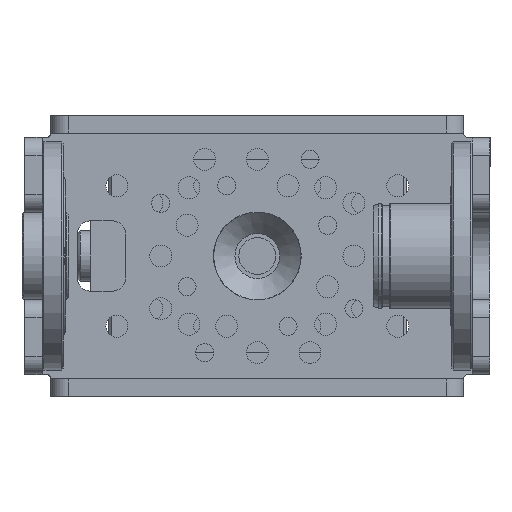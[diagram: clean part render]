
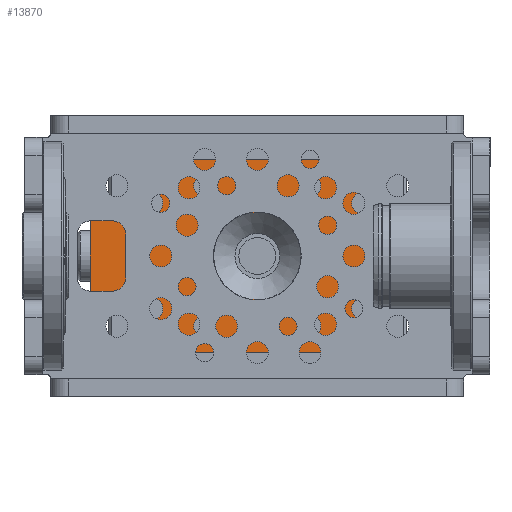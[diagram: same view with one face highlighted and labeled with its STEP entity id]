
A CAD part, left-side view. The second image highlights one B-rep face of the part: STEP entity #13870.
In plain terms, the highlighted planar face has unit normal (-1, 0, 0) as drawn and (0, 0, -1) by its records, which use the part's own axes.
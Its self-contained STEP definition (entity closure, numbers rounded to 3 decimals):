
#1240=FACE_BOUND('',#3036,.T.);
#1241=FACE_BOUND('',#3037,.T.);
#1242=FACE_BOUND('',#3038,.T.);
#1243=FACE_BOUND('',#3039,.T.);
#1244=FACE_BOUND('',#3040,.T.);
#1245=FACE_BOUND('',#3041,.T.);
#1246=FACE_BOUND('',#3042,.T.);
#1247=FACE_BOUND('',#3043,.T.);
#1248=FACE_BOUND('',#3044,.T.);
#1249=FACE_BOUND('',#3045,.T.);
#1250=FACE_BOUND('',#3046,.T.);
#1251=FACE_BOUND('',#3047,.T.);
#1252=FACE_BOUND('',#3048,.T.);
#1938=FACE_OUTER_BOUND('',#3035,.T.);
#3035=EDGE_LOOP('',(#11576,#11577,#11578,#11579,#11580,#11581,#11582,#11583));
#3036=EDGE_LOOP('',(#11584));
#3037=EDGE_LOOP('',(#11585));
#3038=EDGE_LOOP('',(#11586));
#3039=EDGE_LOOP('',(#11587));
#3040=EDGE_LOOP('',(#11588));
#3041=EDGE_LOOP('',(#11589));
#3042=EDGE_LOOP('',(#11590));
#3043=EDGE_LOOP('',(#11591));
#3044=EDGE_LOOP('',(#11592));
#3045=EDGE_LOOP('',(#11593));
#3046=EDGE_LOOP('',(#11594));
#3047=EDGE_LOOP('',(#11595));
#3048=EDGE_LOOP('',(#11596));
#4080=CIRCLE('',#15167,4.975);
#4081=CIRCLE('',#15169,2.);
#4082=CIRCLE('',#15170,2.);
#4083=CIRCLE('',#15171,2.);
#4084=CIRCLE('',#15172,2.);
#4085=CIRCLE('',#15173,1.25);
#4086=CIRCLE('',#15174,1.25);
#4087=CIRCLE('',#15175,1.25);
#4088=CIRCLE('',#15176,1.25);
#4089=CIRCLE('',#15177,1.25);
#4090=CIRCLE('',#15178,1.25);
#4091=CIRCLE('',#15179,1.25);
#4092=CIRCLE('',#15180,1.25);
#4093=CIRCLE('',#15181,1.25);
#4094=CIRCLE('',#15182,1.25);
#4095=CIRCLE('',#15183,1.25);
#4096=CIRCLE('',#15184,1.25);
#4792=LINE('',#23161,#5787);
#4793=LINE('',#23165,#5788);
#4794=LINE('',#23169,#5789);
#4795=LINE('',#23172,#5790);
#5787=VECTOR('',#18077,18.);
#5788=VECTOR('',#18080,34.);
#5789=VECTOR('',#18083,18.);
#5790=VECTOR('',#18086,34.);
#7070=VERTEX_POINT('',#23154);
#7071=VERTEX_POINT('',#23157);
#7072=VERTEX_POINT('',#23158);
#7073=VERTEX_POINT('',#23160);
#7074=VERTEX_POINT('',#23162);
#7075=VERTEX_POINT('',#23164);
#7076=VERTEX_POINT('',#23166);
#7077=VERTEX_POINT('',#23168);
#7078=VERTEX_POINT('',#23170);
#7079=VERTEX_POINT('',#23173);
#7080=VERTEX_POINT('',#23175);
#7081=VERTEX_POINT('',#23177);
#7082=VERTEX_POINT('',#23179);
#7083=VERTEX_POINT('',#23181);
#7084=VERTEX_POINT('',#23183);
#7085=VERTEX_POINT('',#23185);
#7086=VERTEX_POINT('',#23187);
#7087=VERTEX_POINT('',#23189);
#7088=VERTEX_POINT('',#23191);
#7089=VERTEX_POINT('',#23193);
#7090=VERTEX_POINT('',#23195);
#8687=EDGE_CURVE('',#7070,#7070,#4080,.T.);
#8688=EDGE_CURVE('',#7071,#7072,#4081,.T.);
#8689=EDGE_CURVE('',#7071,#7073,#4792,.F.);
#8690=EDGE_CURVE('',#7074,#7073,#4082,.T.);
#8691=EDGE_CURVE('',#7074,#7075,#4793,.F.);
#8692=EDGE_CURVE('',#7076,#7075,#4083,.T.);
#8693=EDGE_CURVE('',#7076,#7077,#4794,.F.);
#8694=EDGE_CURVE('',#7078,#7077,#4084,.T.);
#8695=EDGE_CURVE('',#7078,#7072,#4795,.F.);
#8696=EDGE_CURVE('',#7079,#7079,#4085,.T.);
#8697=EDGE_CURVE('',#7080,#7080,#4086,.T.);
#8698=EDGE_CURVE('',#7081,#7081,#4087,.T.);
#8699=EDGE_CURVE('',#7082,#7082,#4088,.T.);
#8700=EDGE_CURVE('',#7083,#7083,#4089,.T.);
#8701=EDGE_CURVE('',#7084,#7084,#4090,.T.);
#8702=EDGE_CURVE('',#7085,#7085,#4091,.T.);
#8703=EDGE_CURVE('',#7086,#7086,#4092,.T.);
#8704=EDGE_CURVE('',#7087,#7087,#4093,.T.);
#8705=EDGE_CURVE('',#7088,#7088,#4094,.T.);
#8706=EDGE_CURVE('',#7089,#7089,#4095,.T.);
#8707=EDGE_CURVE('',#7090,#7090,#4096,.T.);
#11576=ORIENTED_EDGE('',*,*,#8688,.F.);
#11577=ORIENTED_EDGE('',*,*,#8689,.T.);
#11578=ORIENTED_EDGE('',*,*,#8690,.F.);
#11579=ORIENTED_EDGE('',*,*,#8691,.T.);
#11580=ORIENTED_EDGE('',*,*,#8692,.F.);
#11581=ORIENTED_EDGE('',*,*,#8693,.T.);
#11582=ORIENTED_EDGE('',*,*,#8694,.F.);
#11583=ORIENTED_EDGE('',*,*,#8695,.T.);
#11584=ORIENTED_EDGE('',*,*,#8696,.T.);
#11585=ORIENTED_EDGE('',*,*,#8697,.T.);
#11586=ORIENTED_EDGE('',*,*,#8698,.T.);
#11587=ORIENTED_EDGE('',*,*,#8699,.T.);
#11588=ORIENTED_EDGE('',*,*,#8700,.T.);
#11589=ORIENTED_EDGE('',*,*,#8701,.T.);
#11590=ORIENTED_EDGE('',*,*,#8702,.T.);
#11591=ORIENTED_EDGE('',*,*,#8703,.T.);
#11592=ORIENTED_EDGE('',*,*,#8704,.T.);
#11593=ORIENTED_EDGE('',*,*,#8705,.T.);
#11594=ORIENTED_EDGE('',*,*,#8706,.T.);
#11595=ORIENTED_EDGE('',*,*,#8707,.T.);
#11596=ORIENTED_EDGE('',*,*,#8687,.F.);
#13177=PLANE('',#15168);
#13870=ADVANCED_FACE('',(#1938,#1240,#1241,#1242,#1243,#1244,#1245,#1246,
#1247,#1248,#1249,#1250,#1251,#1252),#13177,.F.);
#15167=AXIS2_PLACEMENT_3D('',#23155,#18071,#18072);
#15168=AXIS2_PLACEMENT_3D('',#23156,#18073,#18074);
#15169=AXIS2_PLACEMENT_3D('',#23159,#18075,#18076);
#15170=AXIS2_PLACEMENT_3D('',#23163,#18078,#18079);
#15171=AXIS2_PLACEMENT_3D('',#23167,#18081,#18082);
#15172=AXIS2_PLACEMENT_3D('',#23171,#18084,#18085);
#15173=AXIS2_PLACEMENT_3D('',#23174,#18087,#18088);
#15174=AXIS2_PLACEMENT_3D('',#23176,#18089,#18090);
#15175=AXIS2_PLACEMENT_3D('',#23178,#18091,#18092);
#15176=AXIS2_PLACEMENT_3D('',#23180,#18093,#18094);
#15177=AXIS2_PLACEMENT_3D('',#23182,#18095,#18096);
#15178=AXIS2_PLACEMENT_3D('',#23184,#18097,#18098);
#15179=AXIS2_PLACEMENT_3D('',#23186,#18099,#18100);
#15180=AXIS2_PLACEMENT_3D('',#23188,#18101,#18102);
#15181=AXIS2_PLACEMENT_3D('',#23190,#18103,#18104);
#15182=AXIS2_PLACEMENT_3D('',#23192,#18105,#18106);
#15183=AXIS2_PLACEMENT_3D('',#23194,#18107,#18108);
#15184=AXIS2_PLACEMENT_3D('',#23196,#18109,#18110);
#18071=DIRECTION('center_axis',(0.,0.,-1.));
#18072=DIRECTION('ref_axis',(1.,0.,0.));
#18073=DIRECTION('center_axis',(0.,0.,1.));
#18074=DIRECTION('ref_axis',(1.,0.,0.));
#18075=DIRECTION('center_axis',(0.,0.,1.));
#18076=DIRECTION('ref_axis',(0.707,0.707,0.));
#18077=DIRECTION('',(0.,1.,0.));
#18078=DIRECTION('center_axis',(0.,0.,1.));
#18079=DIRECTION('ref_axis',(0.707,-0.707,0.));
#18080=DIRECTION('',(1.,0.,0.));
#18081=DIRECTION('center_axis',(0.,0.,1.));
#18082=DIRECTION('ref_axis',(-0.707,-0.707,0.));
#18083=DIRECTION('',(0.,-1.,0.));
#18084=DIRECTION('center_axis',(0.,0.,1.));
#18085=DIRECTION('ref_axis',(-0.707,0.707,0.));
#18086=DIRECTION('',(-1.,0.,0.));
#18087=DIRECTION('center_axis',(0.,0.,1.));
#18088=DIRECTION('ref_axis',(1.,0.,0.));
#18089=DIRECTION('center_axis',(0.,0.,1.));
#18090=DIRECTION('ref_axis',(1.,0.,0.));
#18091=DIRECTION('center_axis',(0.,0.,1.));
#18092=DIRECTION('ref_axis',(1.,0.,0.));
#18093=DIRECTION('center_axis',(0.,0.,1.));
#18094=DIRECTION('ref_axis',(1.,0.,0.));
#18095=DIRECTION('center_axis',(0.,0.,1.));
#18096=DIRECTION('ref_axis',(1.,0.,0.));
#18097=DIRECTION('center_axis',(0.,0.,1.));
#18098=DIRECTION('ref_axis',(1.,0.,0.));
#18099=DIRECTION('center_axis',(0.,0.,1.));
#18100=DIRECTION('ref_axis',(1.,0.,0.));
#18101=DIRECTION('center_axis',(0.,0.,1.));
#18102=DIRECTION('ref_axis',(1.,0.,0.));
#18103=DIRECTION('center_axis',(0.,0.,1.));
#18104=DIRECTION('ref_axis',(1.,0.,0.));
#18105=DIRECTION('center_axis',(0.,0.,1.));
#18106=DIRECTION('ref_axis',(1.,0.,0.));
#18107=DIRECTION('center_axis',(0.,0.,1.));
#18108=DIRECTION('ref_axis',(1.,0.,0.));
#18109=DIRECTION('center_axis',(0.,0.,1.));
#18110=DIRECTION('ref_axis',(1.,0.,0.));
#23154=CARTESIAN_POINT('',(-4.975,0.,-0.875));
#23155=CARTESIAN_POINT('Origin',(0.,0.,-0.875));
#23156=CARTESIAN_POINT('Origin',(0.,0.,-0.875));
#23157=CARTESIAN_POINT('',(19.,9.,-0.875));
#23158=CARTESIAN_POINT('',(17.,11.,-0.875));
#23159=CARTESIAN_POINT('Origin',(17.,9.,-0.875));
#23160=CARTESIAN_POINT('',(19.,-9.,-0.875));
#23161=CARTESIAN_POINT('',(19.,-5.5,-0.875));
#23162=CARTESIAN_POINT('',(17.,-11.,-0.875));
#23163=CARTESIAN_POINT('Origin',(17.,-9.,-0.875));
#23164=CARTESIAN_POINT('',(-17.,-11.,-0.875));
#23165=CARTESIAN_POINT('',(5.,-11.,-0.875));
#23166=CARTESIAN_POINT('',(-19.,-9.,-0.875));
#23167=CARTESIAN_POINT('Origin',(-17.,-9.,-0.875));
#23168=CARTESIAN_POINT('',(-19.,9.,-0.875));
#23169=CARTESIAN_POINT('',(-19.,5.5,-0.875));
#23170=CARTESIAN_POINT('',(-17.,11.,-0.875));
#23171=CARTESIAN_POINT('Origin',(-17.,9.,-0.875));
#23172=CARTESIAN_POINT('',(9.5,11.,-0.875));
#23173=CARTESIAN_POINT('',(4.75,8.,-0.875));
#23174=CARTESIAN_POINT('Origin',(6.,8.,-0.875));
#23175=CARTESIAN_POINT('',(-7.25,8.,-0.875));
#23176=CARTESIAN_POINT('Origin',(-6.,8.,-0.875));
#23177=CARTESIAN_POINT('',(14.75,8.,-0.875));
#23178=CARTESIAN_POINT('Origin',(16.,8.,-0.875));
#23179=CARTESIAN_POINT('',(14.75,-8.,-0.875));
#23180=CARTESIAN_POINT('Origin',(16.,-8.,-0.875));
#23181=CARTESIAN_POINT('',(-17.25,8.,-0.875));
#23182=CARTESIAN_POINT('Origin',(-16.,8.,-0.875));
#23183=CARTESIAN_POINT('',(-17.25,-8.,-0.875));
#23184=CARTESIAN_POINT('Origin',(-16.,-8.,-0.875));
#23185=CARTESIAN_POINT('',(4.75,-8.,-0.875));
#23186=CARTESIAN_POINT('Origin',(6.,-8.,-0.875));
#23187=CARTESIAN_POINT('',(-7.25,-8.,-0.875));
#23188=CARTESIAN_POINT('Origin',(-6.,-8.,-0.875));
#23189=CARTESIAN_POINT('',(10.75,6.,-0.875));
#23190=CARTESIAN_POINT('Origin',(12.,6.,-0.875));
#23191=CARTESIAN_POINT('',(-13.25,-6.,-0.875));
#23192=CARTESIAN_POINT('Origin',(-12.,-6.,-0.875));
#23193=CARTESIAN_POINT('',(-13.25,6.,-0.875));
#23194=CARTESIAN_POINT('Origin',(-12.,6.,-0.875));
#23195=CARTESIAN_POINT('',(10.75,-6.,-0.875));
#23196=CARTESIAN_POINT('Origin',(12.,-6.,-0.875));
